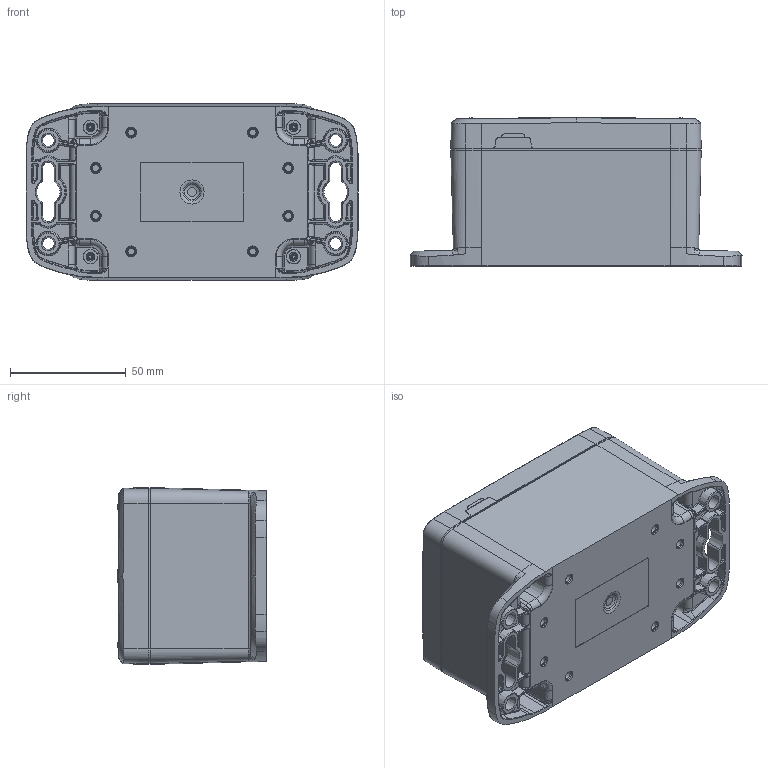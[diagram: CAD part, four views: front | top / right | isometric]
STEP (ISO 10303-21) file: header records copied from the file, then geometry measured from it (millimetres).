
FILE_DESCRIPTION (( 'STEP AP214' ), '1' );
FILE_NAME ('HN-34-01.STEP', '2026-09-24T17:58:47', ( '' ), ( '' ), 'SwSTEP 2.0', 'SolidWorks 2026', '' );
FILE_SCHEMA (( 'AUTOMOTIVE_DESIGN' ));
Length unit declared in the file: inch
Products named in the file (9): HN-34-01; LABEL-100; INSERTS-3_INSERTS-3; HN-34BN_HN-34BFN-01; HN-34G_default; HN-34C_HN-34C-01; SCREWS-054_DEFAULT; HN-34B_HN-34BF-01; HN-34CG_HN-34CG-01
Assembly tree (14 placements, depth 3):
  HN-34-01
    HN-34B_HN-34BF-01
      HN-34BN_HN-34BFN-01
      INSERTS-3_INSERTS-3  x4
      LABEL-100
    HN-34CG_HN-34CG-01
      HN-34C_HN-34C-01
      HN-34G_default
    SCREWS-054_DEFAULT  x4
Bounding box: 143.12 x 63.88 x 76.2 mm (x, y, z)
Volume: 150026.1 mm3; surface area: 109212.1 mm2
Topology: 11 solids, 13 shells, 3761 faces, 8889 edges, 5160 vertices
Faces by surface type: bspline 1052, torus 722, cylinder 670, cone 660, plane 593, sphere 64
Full cylindrical faces by diameter (mm): 2.413 x4, 2.705 x4, 4.318 x4, 4.445 x16, 4.699 x8, 5.283 x8, 6.274 x4, 6.858 x4
Entity records: 130994 total; most frequent: CARTESIAN_POINT 61919, ORIENTED_EDGE 15530, DIRECTION 12701, EDGE_CURVE 7768, AXIS2_PLACEMENT_3D 5466, VERTEX_POINT 4665, EDGE_LOOP 3670, FACE_OUTER_BOUND 3463
